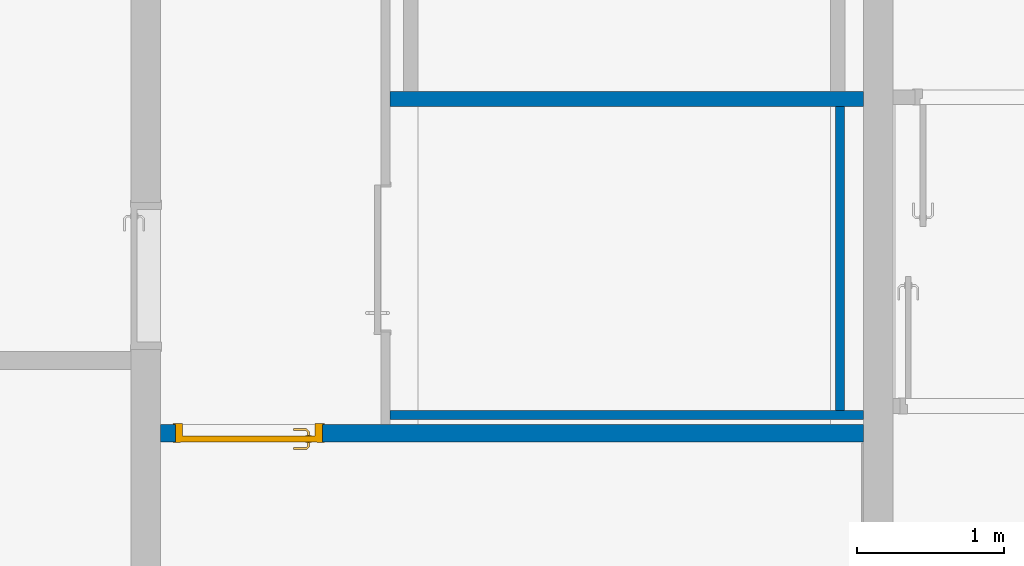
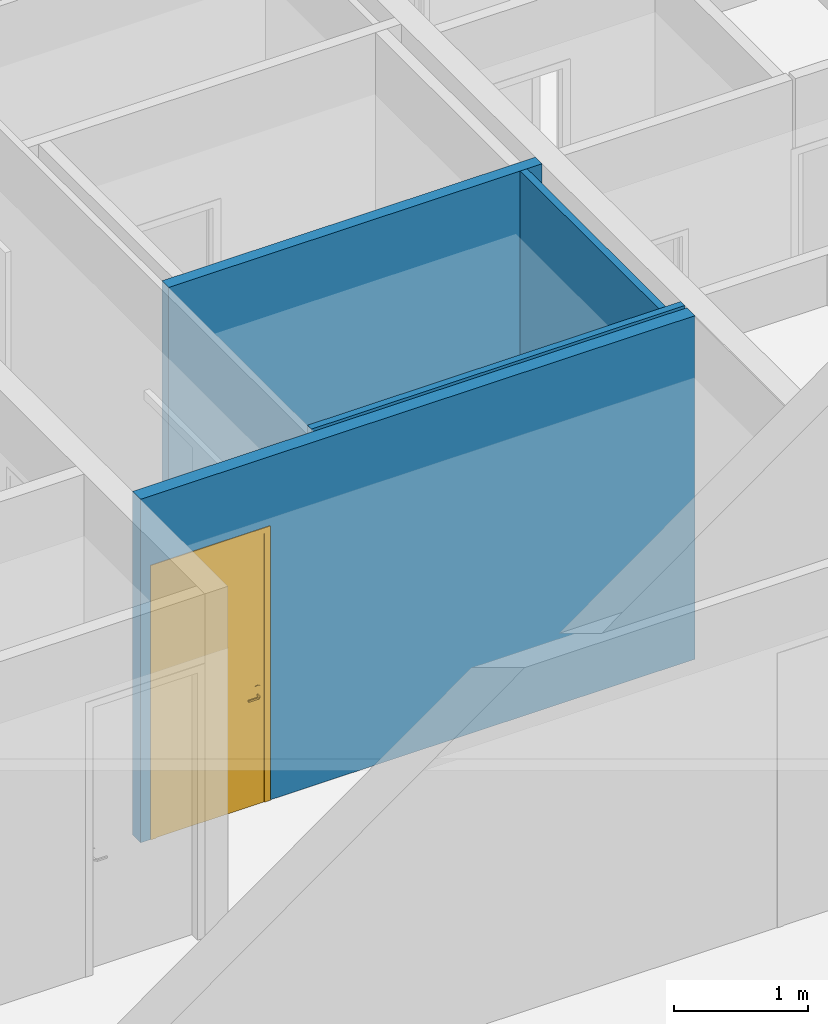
# One storey, part 98 of 240: 4 walls, 1 door, 1 opening.
"""IFC2X3 building model written with IfcOpenShell, lengths in centimetres."""

from ifc_helpers import new_model, entity, si_unit, converted_unit, derived_unit, direction, frame, frame_2d, origin, place, context, subcontext, project, spatial, rectangle, extrude, faceted_brep, source, transform, mapped, material, material_list, layer, layer_set, layer_usage, type_object, type_shapes, element, fill, save


model = new_model("IFC2X3")

# Units and contexts
model_context = context("Model", 3, precision=0.001, world=origin(), true_north=direction((6.12303176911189e-17, 1.0)))
body_context = subcontext(model_context, "Body", "Model", "MODEL_VIEW")
ifc_project = project(units=[si_unit("LENGTHUNIT", "METRE", prefix="CENTI"), si_unit("AREAUNIT", "SQUARE_METRE"), si_unit("VOLUMEUNIT", "CUBIC_METRE"), converted_unit("PLANEANGLEUNIT", "DEGREE", entity("IfcRatioMeasure", 0.0174532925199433), si_unit("PLANEANGLEUNIT", "RADIAN"), dimensions=[0, 0, 0, 0, 0, 0, 0]), si_unit("MASSUNIT", "GRAM", prefix="KILO"), derived_unit("MASSDENSITYUNIT", [(si_unit("MASSUNIT", "GRAM", prefix="KILO"), 1), (si_unit("LENGTHUNIT", "METRE"), -3)]), si_unit("TIMEUNIT", "SECOND"), si_unit("FREQUENCYUNIT", "HERTZ"), si_unit("THERMODYNAMICTEMPERATUREUNIT", "DEGREE_CELSIUS"), derived_unit("THERMALTRANSMITTANCEUNIT", [(si_unit("MASSUNIT", "GRAM", prefix="KILO"), 1), (si_unit("THERMODYNAMICTEMPERATUREUNIT", "KELVIN"), -1), (si_unit("TIMEUNIT", "SECOND"), -3)]), derived_unit("VOLUMETRICFLOWRATEUNIT", [(si_unit("LENGTHUNIT", "METRE"), 3), (si_unit("TIMEUNIT", "SECOND"), -1)]), si_unit("ELECTRICCURRENTUNIT", "AMPERE"), si_unit("ELECTRICVOLTAGEUNIT", "VOLT"), si_unit("POWERUNIT", "WATT"), si_unit("FORCEUNIT", "NEWTON", prefix="KILO"), si_unit("ILLUMINANCEUNIT", "LUX"), si_unit("LUMINOUSFLUXUNIT", "LUMEN"), si_unit("LUMINOUSINTENSITYUNIT", "CANDELA"), derived_unit("USERDEFINED", [(si_unit("MASSUNIT", "GRAM", prefix="KILO"), -1), (si_unit("LENGTHUNIT", "METRE"), -2), (si_unit("TIMEUNIT", "SECOND"), 3), (si_unit("LUMINOUSFLUXUNIT", "LUMEN"), 1)]), derived_unit("LINEARVELOCITYUNIT", [(si_unit("LENGTHUNIT", "METRE"), 1), (si_unit("TIMEUNIT", "SECOND"), -1)]), si_unit("PRESSUREUNIT", "PASCAL"), derived_unit("USERDEFINED", [(si_unit("LENGTHUNIT", "METRE"), -2), (si_unit("MASSUNIT", "GRAM", prefix="KILO"), 1), (si_unit("TIMEUNIT", "SECOND"), -2)])], contexts=[model_context])

# Site, building, storey
site_placement = place(None, frame((-2781.94577612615, 7442.24238424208, 0.0)))
site = spatial("IfcSite", under=ifc_project, at=site_placement, Name="Default", CompositionType="ELEMENT")
building_placement = place(site_placement, origin())
building = spatial("IfcBuilding", under=site, at=building_placement, CompositionType="ELEMENT")
storey_placement = place(building_placement, origin())
storey = spatial("IfcBuildingStorey", under=building, at=storey_placement, Name="N00 - COO", CompositionType="ELEMENT", Elevation=0.0)

# Wall, opening, door
ifc_material_1 = material(Name="01 - Enduit/Plâtre")
ifc_layer_1 = layer(ifc_material_1, 1.0)
ifc_material_2 = material(Name="Maçonnerie - Béton")
ifc_layer_2 = layer(ifc_material_2, 10.0)
ifc_layer_3 = layer(ifc_material_1, 1.0)
ifc_layer_set_1 = layer_set([ifc_layer_1, ifc_layer_2, ifc_layer_3], Name="Mur de base:06 - cloisons - agglos10 + faïence 12cm")
ifc_layer_usage_1 = layer_usage(ifc_layer_set_1, "AXIS2", "NEGATIVE", 6.0)
wall_type_1 = type_object("IfcWallType", Name="Mur de base:06 - cloisons - agglos10 + faïence 12cm", PredefinedType="STANDARD", material=ifc_layer_set_1)
wall_1_placement = place(building_placement, frame((-10174.834550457, -3033.52180651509, 0.0)))
wall_1 = element("IfcWallStandardCase", 1, at=wall_1_placement, inside=storey, type_object=wall_type_1, material=ifc_layer_usage_1, Name="Mur de base:06 - cloisons - agglos10 + faïence 12cm", ObjectType="Mur de base:06 - cloisons - agglos10 + faïence 12cm", context=body_context, shape_type="SweptSolid", body=[
    extrude(rectangle(XDim=477.834553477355, YDim=11.9999999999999, at=frame_2d((238.917276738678, -1.77635683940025e-14), x_axis=(-1.0, 0.0))), origin(), (0.0, 0.0, 1.0), 313.0),
])
opening_placement = place(wall_1_placement, frame((110.0, 6.0, 0.0)))
opening = element("IfcOpeningElement", 2, at=opening_placement, cuts=wall_1, Name="Int. Simple:PP simple (0.93m x 2.50m):1", ObjectType="Opening", context=body_context, shape_type="SweptSolid", body=[
    extrude(rectangle(XDim=248.500000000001, YDim=99.9999999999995, at=frame_2d((124.250000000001, 49.9999999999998), x_axis=(1.0, 0.0))), frame((0.0, 0.0, 0.0), z_axis=(0.0, -1.0, 0.0), x_axis=(0.0, 0.0, 1.0)), (0.0, 0.0, 1.0), 12.0),
])
ifc_material_3 = material(Name="Finition Peinture - Blanc satiné")
ifc_material_4 = material(Name="Bois - Panneau de porte")
ifc_material_5 = material(Name="Bois - Cadre de porte")
ifc_material_list_1 = material_list([ifc_material_3, ifc_material_4, ifc_material_5])
ifc_material_list_2 = material_list([ifc_material_3, ifc_material_4, ifc_material_5])
door_style = type_object("IfcDoorStyle", Name="PP simple (0.93m x 2.50m)", ConstructionType="NOTDEFINED", OperationType="SINGLE_SWING_RIGHT", ParameterTakesPrecedence=False, Sizeable=False, material=ifc_material_list_2)
shared_shape = source(origin(), body_context, "Body", "Brep", [
    faceted_brep([(99.5000000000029, -0.500000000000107, 87.0), (99.5000000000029, -0.500000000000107, 108.0), (98.535276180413, -0.500000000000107, 108.399601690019), (97.5000000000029, -0.500000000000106, 108.535898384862), (96.4647238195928, -0.500000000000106, 108.399601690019), (95.500000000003, -0.500000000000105, 108.0), (95.5000000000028, -0.500000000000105, 87.0), (96.4647238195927, -0.500000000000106, 86.6003983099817), (97.5000000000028, -0.500000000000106, 86.464101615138), (98.5352761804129, -0.500000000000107, 86.6003983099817), (99.5000000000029, 0.0, 108.0), (99.5000000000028, 0.0, 87.0), (98.5352761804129, 0.0, 86.6003983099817), (97.5000000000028, 0.0, 86.464101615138), (96.4647238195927, 0.0, 86.6003983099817), (95.5000000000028, 0.0, 87.0), (95.5000000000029, 0.0, 108.0), (96.4647238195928, 0.0, 108.399601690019), (97.5000000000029, 0.0, 108.535898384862), (98.535276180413, 0.0, 108.399601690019)], [[[0, 1, 2, 3, 4, 5, 6, 7, 8, 9]], [[10, 11, 12, 13, 14, 15, 16, 17, 18, 19]], [[9, 12, 11, 0]], [[8, 13, 12, 9]], [[7, 14, 13, 8]], [[7, 6, 15, 14]], [[15, 6, 5, 16]], [[4, 17, 16, 5]], [[3, 18, 17, 4]], [[2, 19, 18, 3]], [[2, 1, 10, 19]], [[11, 10, 1, 0]]]),
    faceted_brep([(99.5000000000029, 4.0, 87.0), (99.5000000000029, 4.0, 108.0), (98.535276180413, 4.0, 108.399601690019), (97.5000000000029, 4.0, 108.535898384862), (96.4647238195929, 4.0, 108.399601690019), (95.500000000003, 4.0, 108.0), (95.5000000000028, 4.0, 87.0), (96.4647238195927, 4.0, 86.6003983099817), (97.5000000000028, 4.0, 86.464101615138), (98.5352761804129, 4.0, 86.6003983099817), (97.5000000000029, 4.49999999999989, 108.535898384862), (98.535276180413, 4.49999999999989, 108.399601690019), (99.5000000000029, 4.49999999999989, 108.0), (99.5000000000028, 4.49999999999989, 87.0), (98.5352761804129, 4.49999999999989, 86.6003983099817), (97.5000000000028, 4.49999999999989, 86.464101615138), (96.4647238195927, 4.49999999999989, 86.6003983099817), (95.5000000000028, 4.49999999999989, 87.0), (95.500000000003, 4.49999999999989, 108.0), (96.4647238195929, 4.49999999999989, 108.399601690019)], [[[0, 1, 2, 3, 4, 5, 6, 7, 8, 9]], [[10, 11, 12, 13, 14, 15, 16, 17, 18, 19]], [[4, 19, 18, 5]], [[3, 10, 19, 4]], [[2, 11, 10, 3]], [[2, 1, 12, 11]], [[13, 12, 1, 0]], [[9, 14, 13, 0]], [[8, 15, 14, 9]], [[7, 16, 15, 8]], [[7, 6, 17, 16]], [[17, 6, 5, 18]]]),
    faceted_brep([(97.2974701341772, -0.500000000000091, 100.778044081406), (97.7025298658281, -0.500000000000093, 100.778044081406), (98.1000000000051, -0.500000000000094, 100.699999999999), (98.100000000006, -0.500000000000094, 99.2999999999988), (97.7025298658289, -0.500000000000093, 99.221955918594), (97.297470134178, -0.500000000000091, 99.2219559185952), (96.9000000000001, -0.500000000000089, 99.3000000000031), (96.9000000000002, -0.500000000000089, 100.7), (97.7025298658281, -3.10045754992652, 100.778044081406), (98.1000000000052, -3.26509507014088, 100.7), (97.2974701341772, -2.93267631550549, 100.778044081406), (95.9298602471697, -4.30028620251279, 100.778044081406), (96.0976414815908, -4.70534593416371, 100.778044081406), (96.9000000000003, -2.76803879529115, 100.7), (96.9000000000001, -2.76803879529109, 99.3000000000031), (97.297470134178, -2.93267631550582, 99.2219559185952), (97.7025298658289, -3.10045754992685, 99.221955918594), (96.0976414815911, -4.7053459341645, 99.221955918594), (95.9298602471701, -4.30028620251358, 99.2219559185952), (98.100000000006, -3.26509507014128, 99.2999999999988), (96.2622790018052, -5.10281606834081, 100.7), (95.7652227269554, -3.90281606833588, 100.7), (95.7652227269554, -3.90281606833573, 99.3000000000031), (96.2622790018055, -5.10281606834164, 99.2999999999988), (87.4981359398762, -5.10281606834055, 100.7), (87.4981359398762, -4.70534593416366, 100.778044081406), (87.4981359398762, -4.30028620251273, 100.778044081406), (87.4981359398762, -3.90281606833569, 100.699999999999), (87.4981359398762, -3.90281606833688, 99.3000000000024), (87.4981359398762, -4.30028620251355, 99.2219559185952), (87.4981359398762, -4.70534593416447, 99.221955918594), (87.4981359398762, -5.10281606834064, 99.2999999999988), (91.7139980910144, -4.5028160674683, 100.78786867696), (92.2692302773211, -5.1028160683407, 100.7), (91.6316793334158, -3.9028160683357, 100.7), (91.631679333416, -3.9028160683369, 99.3000000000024), (91.7139981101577, -4.50281607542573, 99.2121313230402), (92.2692310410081, -5.10281606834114, 99.2999999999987)], [[[0, 1, 2, 3, 4, 5, 6, 7]], [[2, 1, 8, 9]], [[1, 0, 10, 11, 12, 8]], [[0, 7, 13, 10]], [[14, 13, 7, 6]], [[5, 15, 14, 6]], [[5, 4, 16, 17, 18, 15]], [[3, 19, 16, 4]], [[9, 19, 3, 2]], [[9, 8, 12, 20]], [[10, 13, 21, 11]], [[22, 21, 13, 14]], [[14, 15, 18, 22]], [[16, 19, 23, 17]], [[20, 23, 19, 9]], [[24, 25, 26, 27, 28, 29, 30, 31]], [[32, 25, 33]], [[33, 25, 24]], [[33, 20, 12]], [[11, 34, 32]], [[34, 11, 21]], [[27, 26, 34]], [[32, 26, 25]], [[32, 34, 26]], [[32, 33, 12]], [[11, 32, 12]], [[21, 22, 35, 28, 27, 34]], [[36, 29, 35]], [[30, 36, 37]], [[18, 35, 22]], [[29, 28, 35]], [[30, 37, 31]], [[37, 17, 23]], [[36, 17, 37]], [[36, 18, 17]], [[36, 35, 18]], [[29, 36, 30]], [[23, 20, 33, 24, 31, 37]]]),
    faceted_brep([(97.2974701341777, 4.49999999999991, 99.2219559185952), (97.7025298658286, 4.49999999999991, 99.221955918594), (98.1000000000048, 4.4999999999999, 99.2999999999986), (98.1000000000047, 4.4999999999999, 100.7), (97.7025298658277, 4.49999999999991, 100.778044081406), (97.2974701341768, 4.49999999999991, 100.778044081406), (96.8999999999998, 4.49999999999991, 100.7), (96.900000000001, 4.49999999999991, 99.3000000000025), (96.8999999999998, 6.7485204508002, 100.7), (96.8999999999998, 6.74852045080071, 99.3000000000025), (97.2974701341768, 6.91315797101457, 100.778044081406), (97.7025298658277, 7.0809392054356, 100.778044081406), (96.0838906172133, 8.69957845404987, 100.778044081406), (95.9161093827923, 8.29451872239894, 100.778044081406), (98.1000000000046, 7.24557672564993, 100.7), (98.1000000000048, 7.24557672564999, 99.2999999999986), (97.7025298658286, 7.08093920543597, 99.221955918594), (97.2974701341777, 6.91315797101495, 99.2219559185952), (95.9161093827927, 8.29451872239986, 99.2219559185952), (96.0838906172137, 8.69957845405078, 99.221955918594), (95.751471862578, 7.89704858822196, 100.7), (95.7514718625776, 7.89704858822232, 99.3000000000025), (96.2485281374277, 9.09704858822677, 100.7), (96.2485281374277, 9.09704858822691, 99.2999999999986), (87.4954216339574, 8.29451872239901, 100.778044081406), (87.4954216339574, 8.69957845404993, 100.778044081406), (87.4954216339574, 9.09704858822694, 100.7), (87.4954216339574, 9.09704858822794, 99.2999999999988), (87.4954216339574, 8.6995784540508, 99.221955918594), (87.4954216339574, 8.29451872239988, 99.2219559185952), (87.4954216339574, 7.89704858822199, 99.3000000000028), (87.4954216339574, 7.89704858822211, 100.7), (91.6234467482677, 7.89704858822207, 100.7), (91.6234479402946, 7.89704858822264, 99.3000000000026), (91.7057655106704, 8.49704858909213, 100.78786867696), (92.255479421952, 9.09704858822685, 100.7), (92.2554795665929, 9.09704858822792, 99.2999999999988), (91.7057654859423, 8.49704858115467, 99.2121313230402)], [[[0, 1, 2, 3, 4, 5, 6, 7]], [[8, 9, 7, 6]], [[5, 10, 8, 6]], [[5, 4, 11, 12, 13, 10]], [[3, 14, 11, 4]], [[14, 3, 2, 15]], [[2, 1, 16, 15]], [[1, 0, 17, 18, 19, 16]], [[0, 7, 9, 17]], [[20, 21, 9, 8]], [[8, 10, 13, 20]], [[14, 22, 12, 11]], [[23, 22, 14, 15]], [[15, 16, 19, 23]], [[17, 9, 21, 18]], [[24, 25, 26, 27, 28, 29, 30, 31]], [[21, 20, 32, 31, 30, 33]], [[34, 24, 32]], [[25, 34, 35]], [[13, 32, 20]], [[24, 31, 32]], [[25, 35, 26]], [[35, 12, 22]], [[34, 12, 35]], [[34, 13, 12]], [[34, 32, 13]], [[24, 34, 25]], [[22, 23, 36, 27, 26, 35]], [[37, 28, 36]], [[36, 28, 27]], [[36, 23, 19]], [[18, 33, 37]], [[33, 18, 21]], [[30, 29, 33]], [[37, 29, 28]], [[37, 33, 29]], [[37, 36, 19]], [[18, 37, 19]]]),
    faceted_brep([(103.500000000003, 4.0, 245.0), (103.500000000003, 4.0, 0.0), (10.5000000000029, 4.0, 0.0), (10.5000000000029, 4.0, 245.0), (103.500000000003, 0.0, 245.0), (10.5000000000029, 0.0, 245.0), (10.5000000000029, 0.0, 0.0), (103.500000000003, 0.0, 0.0)], [[[0, 1, 2, 3]], [[4, 5, 6, 7]], [[3, 5, 4, 0]], [[2, 6, 5, 3]], [[1, 7, 6, 2]], [[0, 4, 7, 1]]]),
    faceted_brep([(107.0, 12.0, 0.0), (107.0, 0.0, 0.0), (108.500000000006, 0.0, 0.0), (108.500000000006, -0.500000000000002, 0.0), (103.500000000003, -0.500000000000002, 0.0), (103.500000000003, 4.0, 0.0), (102.0, 4.0, 0.0), (102.0, 12.5000000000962, 0.0), (108.500000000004, 12.5000000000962, 0.0), (108.500000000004, 12.0, 0.0), (107.0, 12.0, 248.500000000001), (107.0, 0.0, 248.500000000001), (108.500000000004, 12.0, 250.0), (5.50000000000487, 12.0, 250.0), (5.50000000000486, 12.0, 0.0), (7.0, 12.0, 0.0), (7.0, 12.0, 248.500000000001), (102.0, 4.0, 243.5), (102.0, 12.5000000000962, 243.5), (103.500000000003, 4.0, 245.0), (10.5000000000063, 4.0, 245.0), (10.5000000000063, 4.0, 0.0), (12.0, 4.0, 0.0), (12.0, 4.0, 243.5), (7.0, 0.0, 0.0), (7.0, 0.0, 248.500000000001), (5.50000000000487, 12.5000000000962, 0.0), (12.0, 12.5000000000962, 0.0), (10.5000000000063, -0.500000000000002, 0.0), (5.5000000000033, -0.500000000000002, 0.0), (5.5000000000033, 0.0, 0.0), (12.0, 12.5000000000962, 243.5), (103.500000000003, -0.500000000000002, 245.0), (108.500000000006, -0.500000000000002, 250.0), (5.5000000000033, -0.500000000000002, 250.0), (10.5000000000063, -0.500000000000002, 245.0), (108.500000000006, 0.0, 250.0), (5.50000000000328, 0.0, 250.0), (108.500000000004, 12.5000000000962, 250.0), (5.50000000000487, 12.5000000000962, 250.0)], [[[0, 1, 2, 3, 4, 5, 6, 7, 8, 9]], [[0, 10, 11, 1]], [[9, 12, 13, 14, 15, 16, 10, 0]], [[7, 6, 17, 18]], [[5, 19, 20, 21, 22, 23, 17, 6]], [[16, 15, 24, 25]], [[15, 14, 26, 27, 22, 21, 28, 29, 30, 24]], [[23, 22, 27, 31]], [[10, 16, 25, 11]], [[17, 23, 31, 18]], [[5, 4, 32, 19]], [[3, 33, 34, 29, 28, 35, 32, 4]], [[2, 36, 33, 3]], [[1, 11, 25, 24, 30, 37, 36, 2]], [[8, 38, 12, 9]], [[7, 18, 31, 27, 26, 39, 38, 8]], [[35, 28, 21, 20]], [[37, 30, 29, 34]], [[39, 26, 14, 13]], [[32, 35, 20, 19]], [[36, 37, 34, 33]], [[38, 39, 13, 12]]]),
])
type_shapes(door_style, [shared_shape])
door_placement = place(opening_placement, frame((-107.0, -12.0, 0.0)))
door = element("IfcDoor", 3, at=door_placement, inside=storey, type_object=door_style, material=ifc_material_list_1, Name="Int. Simple:PP simple (0.93m x 2.50m)", ObjectType="Int. Simple:PP simple (0.93m x 2.50m)", OverallHeight=248.500000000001, OverallWidth=99.9999999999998, context=body_context, shape_type="MappedRepresentation", body=[
    mapped(shared_shape, transform((0.0, 0.0, 0.0), scale=1.0)),
])
fill(opening, door)

# Walls
ifc_material_6 = material(Name="Plastique, blanc opaque")
ifc_layer_4 = layer(ifc_material_6, 0.2)
ifc_material_7 = material(Name="00 - Isolant cloison Frigo")
ifc_layer_5 = layer(ifc_material_7, 5.6)
ifc_layer_6 = layer(ifc_material_6, 0.2)
ifc_layer_set_2 = layer_set([ifc_layer_4, ifc_layer_5, ifc_layer_6], Name="Mur de base:06 - cloisons - cuisine 6cm")
ifc_layer_usage_2 = layer_usage(ifc_layer_set_2, "AXIS2", "NEGATIVE", 3.0)
wall_type_2 = type_object("IfcWallType", Name="Mur de base:06 - cloisons - cuisine 6cm", PredefinedType="STANDARD", material=ifc_layer_set_2)
wall_2_placement = place(building_placement, frame((-10018.8417569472, -3021.22457050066, 0.0)))
element("IfcWallStandardCase", 4, at=wall_2_placement, inside=storey, type_object=wall_type_2, material=ifc_layer_usage_2, Name="Mur de base:06 - cloisons - cuisine 6cm", ObjectType="Mur de base:06 - cloisons - cuisine 6cm", context=body_context, shape_type="SweptSolid", body=[
    extrude(rectangle(XDim=321.841759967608, YDim=6.00000000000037, at=frame_2d((160.920879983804, -2.22044604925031e-16), x_axis=(-1.0, 0.0))), origin(), (0.0, 0.0, 1.0), 313.00000000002),
])
ifc_layer_usage_3 = layer_usage(ifc_layer_set_2, "AXIS2", "NEGATIVE", 3.0)
wall_3_placement = place(building_placement, frame((-9712.84154172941, -3018.22457050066, 0.0), z_axis=(0.0, 0.0, 1.0), x_axis=(0.0, 1.0, 0.0)))
element("IfcWallStandardCase", 5, at=wall_3_placement, inside=storey, type_object=wall_type_2, material=ifc_layer_usage_3, Name="Mur de base:06 - cloisons - cuisine 6cm", ObjectType="Mur de base:06 - cloisons - cuisine 6cm", context=body_context, shape_type="SweptSolid", body=[
    extrude(rectangle(XDim=206.932694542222, YDim=5.99999999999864, at=frame_2d((103.466347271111, 0.0), x_axis=(-1.0, 0.0))), origin(), (0.0, 0.0, 1.0), 313.00000000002),
])
ifc_layer_7 = layer(ifc_material_6, 0.2)
ifc_layer_8 = layer(ifc_material_7, 9.6)
ifc_layer_9 = layer(ifc_material_6, 0.2)
ifc_layer_set_3 = layer_set([ifc_layer_7, ifc_layer_8, ifc_layer_9], Name="Mur de base:06 - cloisons - cuisine 10cm")
ifc_layer_usage_4 = layer_usage(ifc_layer_set_3, "AXIS2", "NEGATIVE", 5.0)
wall_type_3 = type_object("IfcWallType", Name="Mur de base:06 - cloisons - cuisine 10cm", PredefinedType="STANDARD", material=ifc_layer_set_3)
wall_4_placement = place(building_placement, frame((-10018.8417569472, -2806.29187595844, 0.0)))
element("IfcWallStandardCase", 6, at=wall_4_placement, inside=storey, type_object=wall_type_3, material=ifc_layer_usage_4, Name="Mur de base:06 - cloisons - cuisine 10cm", ObjectType="Mur de base:06 - cloisons - cuisine 10cm", context=body_context, shape_type="SweptSolid", body=[
    extrude(rectangle(XDim=321.84175996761, YDim=10.0000000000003, at=frame_2d((160.920879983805, -1.33226762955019e-15), x_axis=(-1.0, 0.0))), origin(), (0.0, 0.0, 1.0), 313.0),
])

save(model, "model.ifc")
